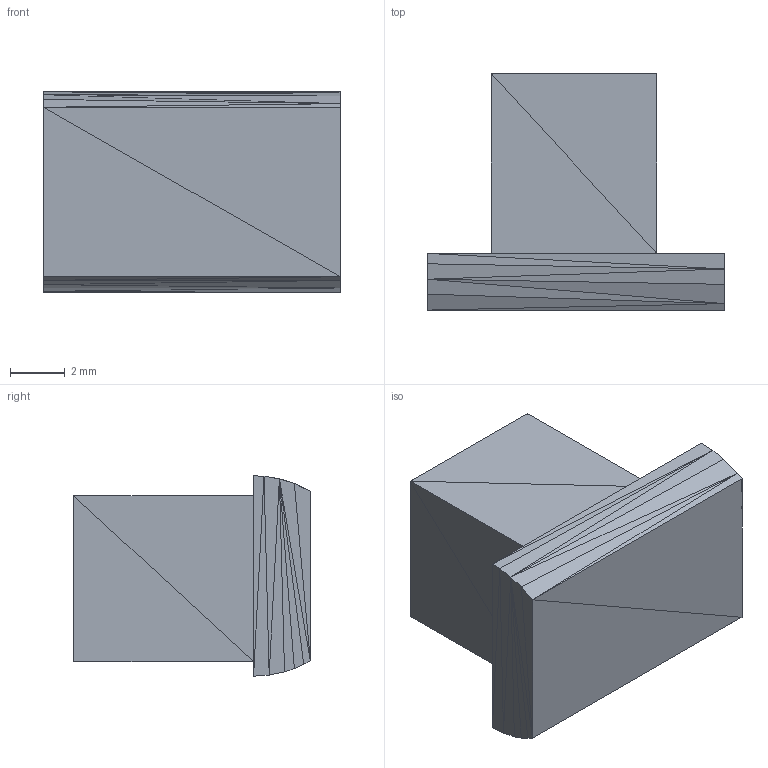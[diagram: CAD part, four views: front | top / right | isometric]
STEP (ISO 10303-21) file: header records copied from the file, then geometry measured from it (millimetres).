
FILE_DESCRIPTION(('FreeCAD Model'),'2;1');
FILE_NAME('Open CASCADE Shape Model','2025-03-06T13:12:32',('Author'),( ''),'Open CASCADE STEP processor 7.8','FreeCAD','Unknown');
FILE_SCHEMA(('AUTOMOTIVE_DESIGN { 1 0 10303 214 1 1 1 1 }'));
Length unit declared in the file: millimetre
Products named in the file (1): FOSSToritisSwitchCover002 (Solid)
Bounding box: 10.84 x 8.65 x 7.33 mm (x, y, z)
Volume: 290.5 mm3; surface area: 488.9 mm2
Topology: 1 solids, 1 shells, 68 faces, 102 edges, 36 vertices
Faces by surface type: plane 68
Entity records: 1360 total; most frequent: DIRECTION 240, CARTESIAN_POINT 207, ORIENTED_EDGE 204, EDGE_CURVE 102, LINE 102, VECTOR 102, AXIS2_PLACEMENT_3D 69, ADVANCED_FACE 68
